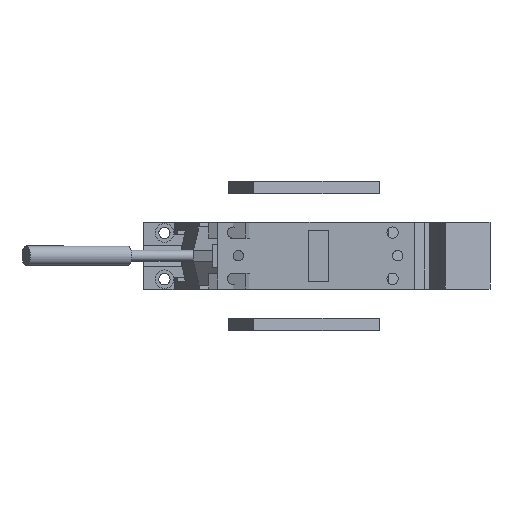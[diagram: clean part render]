
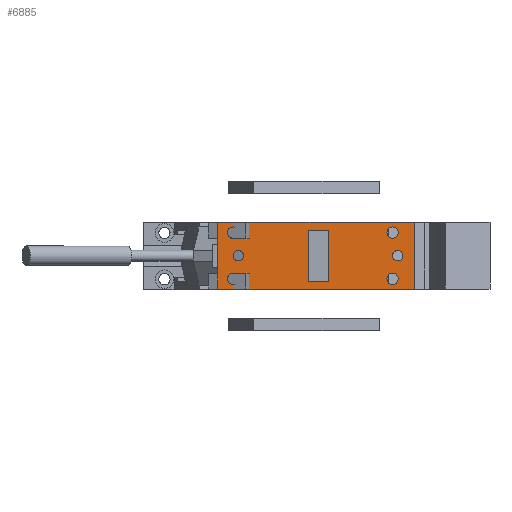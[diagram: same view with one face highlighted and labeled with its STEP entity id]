
A CAD part, top view. The second image highlights one B-rep face of the part: STEP entity #6885.
In plain terms, the highlighted planar face has unit normal (0, 0, 1).
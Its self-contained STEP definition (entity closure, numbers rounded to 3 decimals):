
#6735=AXIS2_PLACEMENT_3D('Plane Axis2P3D',#6732,#6733,#6734) ;
#6779=AXIS2_PLACEMENT_3D('Circle Axis2P3D',#6777,#6778,$) ;
#6788=AXIS2_PLACEMENT_3D('Circle Axis2P3D',#6786,#6787,$) ;
#6797=AXIS2_PLACEMENT_3D('Circle Axis2P3D',#6795,#6796,$) ;
#6806=AXIS2_PLACEMENT_3D('Circle Axis2P3D',#6804,#6805,$) ;
#6815=AXIS2_PLACEMENT_3D('Circle Axis2P3D',#6813,#6814,$) ;
#6824=AXIS2_PLACEMENT_3D('Circle Axis2P3D',#6822,#6823,$) ;
#6833=AXIS2_PLACEMENT_3D('Circle Axis2P3D',#6831,#6832,$) ;
#6842=AXIS2_PLACEMENT_3D('Circle Axis2P3D',#6840,#6841,$) ;
#6851=AXIS2_PLACEMENT_3D('Circle Axis2P3D',#6849,#6850,$) ;
#6860=AXIS2_PLACEMENT_3D('Circle Axis2P3D',#6858,#6859,$) ;
#6869=AXIS2_PLACEMENT_3D('Circle Axis2P3D',#6867,#6868,$) ;
#6878=AXIS2_PLACEMENT_3D('Circle Axis2P3D',#6876,#6877,$) ;
#6605=CARTESIAN_POINT('Vertex',(160.,25.,220.)) ;
#6610=CARTESIAN_POINT('Line Origine',(160.,0.,220.)) ;
#6614=CARTESIAN_POINT('Vertex',(160.,-25.,220.)) ;
#6645=CARTESIAN_POINT('Vertex',(180.,25.,220.)) ;
#6650=CARTESIAN_POINT('Line Origine',(170.,25.,220.)) ;
#6672=CARTESIAN_POINT('Line Origine',(170.,-25.,220.)) ;
#6676=CARTESIAN_POINT('Vertex',(180.,-25.,220.)) ;
#6720=CARTESIAN_POINT('Line Origine',(180.,0.,220.)) ;
#6732=CARTESIAN_POINT('Axis2P3D Location',(263.,0.,220.)) ;
#6737=CARTESIAN_POINT('Line Origine',(72.,0.,220.)) ;
#6741=CARTESIAN_POINT('Vertex',(72.,32.5,220.)) ;
#6743=CARTESIAN_POINT('Vertex',(72.,-32.5,220.)) ;
#6746=CARTESIAN_POINT('Line Origine',(167.5,-32.5,220.)) ;
#6750=CARTESIAN_POINT('Vertex',(263.,-32.5,220.)) ;
#6753=CARTESIAN_POINT('Line Origine',(263.,0.,220.)) ;
#6757=CARTESIAN_POINT('Vertex',(263.,32.5,220.)) ;
#6760=CARTESIAN_POINT('Line Origine',(167.5,32.5,220.)) ;
#6777=CARTESIAN_POINT('Axis2P3D Location',(87.,22.5,220.)) ;
#6781=CARTESIAN_POINT('Vertex',(87.,17.,220.)) ;
#6783=CARTESIAN_POINT('Vertex',(87.,28.,220.)) ;
#6786=CARTESIAN_POINT('Axis2P3D Location',(87.,22.5,220.)) ;
#6795=CARTESIAN_POINT('Axis2P3D Location',(242.,22.5,220.)) ;
#6799=CARTESIAN_POINT('Vertex',(242.,17.,220.)) ;
#6801=CARTESIAN_POINT('Vertex',(242.,28.,220.)) ;
#6804=CARTESIAN_POINT('Axis2P3D Location',(242.,22.5,220.)) ;
#6813=CARTESIAN_POINT('Axis2P3D Location',(87.,-22.5,220.)) ;
#6817=CARTESIAN_POINT('Vertex',(87.,-28.,220.)) ;
#6819=CARTESIAN_POINT('Vertex',(87.,-17.,220.)) ;
#6822=CARTESIAN_POINT('Axis2P3D Location',(87.,-22.5,220.)) ;
#6831=CARTESIAN_POINT('Axis2P3D Location',(242.,-22.5,220.)) ;
#6835=CARTESIAN_POINT('Vertex',(242.,-28.,220.)) ;
#6837=CARTESIAN_POINT('Vertex',(242.,-17.,220.)) ;
#6840=CARTESIAN_POINT('Axis2P3D Location',(242.,-22.5,220.)) ;
#6849=CARTESIAN_POINT('Axis2P3D Location',(92.,0.,220.)) ;
#6853=CARTESIAN_POINT('Vertex',(92.,-5.,220.)) ;
#6855=CARTESIAN_POINT('Vertex',(92.,5.,220.)) ;
#6858=CARTESIAN_POINT('Axis2P3D Location',(92.,0.,220.)) ;
#6867=CARTESIAN_POINT('Axis2P3D Location',(247.,0.,220.)) ;
#6871=CARTESIAN_POINT('Vertex',(247.,-5.,220.)) ;
#6873=CARTESIAN_POINT('Vertex',(247.,5.,220.)) ;
#6876=CARTESIAN_POINT('Axis2P3D Location',(247.,0.,220.)) ;
#6611=DIRECTION('Vector Direction',(0.,-1.,0.)) ;
#6651=DIRECTION('Vector Direction',(-1.,0.,0.)) ;
#6673=DIRECTION('Vector Direction',(1.,0.,0.)) ;
#6721=DIRECTION('Vector Direction',(0.,-1.,0.)) ;
#6733=DIRECTION('Axis2P3D Direction',(0.,0.,-1.)) ;
#6734=DIRECTION('Axis2P3D XDirection',(-1.,0.,0.)) ;
#6738=DIRECTION('Vector Direction',(0.,1.,0.)) ;
#6747=DIRECTION('Vector Direction',(-1.,0.,0.)) ;
#6754=DIRECTION('Vector Direction',(0.,1.,0.)) ;
#6761=DIRECTION('Vector Direction',(-1.,0.,0.)) ;
#6778=DIRECTION('Axis2P3D Direction',(0.,0.,-1.)) ;
#6787=DIRECTION('Axis2P3D Direction',(0.,0.,-1.)) ;
#6796=DIRECTION('Axis2P3D Direction',(0.,0.,-1.)) ;
#6805=DIRECTION('Axis2P3D Direction',(0.,0.,-1.)) ;
#6814=DIRECTION('Axis2P3D Direction',(0.,0.,-1.)) ;
#6823=DIRECTION('Axis2P3D Direction',(0.,0.,-1.)) ;
#6832=DIRECTION('Axis2P3D Direction',(0.,0.,-1.)) ;
#6841=DIRECTION('Axis2P3D Direction',(0.,0.,-1.)) ;
#6850=DIRECTION('Axis2P3D Direction',(0.,0.,-1.)) ;
#6859=DIRECTION('Axis2P3D Direction',(0.,0.,-1.)) ;
#6868=DIRECTION('Axis2P3D Direction',(0.,0.,-1.)) ;
#6877=DIRECTION('Axis2P3D Direction',(0.,0.,-1.)) ;
#6612=VECTOR('Line Direction',#6611,1.) ;
#6652=VECTOR('Line Direction',#6651,1.) ;
#6674=VECTOR('Line Direction',#6673,1.) ;
#6722=VECTOR('Line Direction',#6721,1.) ;
#6739=VECTOR('Line Direction',#6738,1.) ;
#6748=VECTOR('Line Direction',#6747,1.) ;
#6755=VECTOR('Line Direction',#6754,1.) ;
#6762=VECTOR('Line Direction',#6761,1.) ;
#6766=ORIENTED_EDGE('',*,*,#6745,.T.) ;
#6767=ORIENTED_EDGE('',*,*,#6752,.T.) ;
#6768=ORIENTED_EDGE('',*,*,#6759,.F.) ;
#6769=ORIENTED_EDGE('',*,*,#6764,.F.) ;
#6772=ORIENTED_EDGE('',*,*,#6724,.T.) ;
#6773=ORIENTED_EDGE('',*,*,#6678,.F.) ;
#6774=ORIENTED_EDGE('',*,*,#6616,.F.) ;
#6775=ORIENTED_EDGE('',*,*,#6654,.F.) ;
#6792=ORIENTED_EDGE('',*,*,#6785,.T.) ;
#6793=ORIENTED_EDGE('',*,*,#6790,.T.) ;
#6810=ORIENTED_EDGE('',*,*,#6803,.T.) ;
#6811=ORIENTED_EDGE('',*,*,#6808,.T.) ;
#6828=ORIENTED_EDGE('',*,*,#6821,.T.) ;
#6829=ORIENTED_EDGE('',*,*,#6826,.T.) ;
#6846=ORIENTED_EDGE('',*,*,#6839,.T.) ;
#6847=ORIENTED_EDGE('',*,*,#6844,.T.) ;
#6864=ORIENTED_EDGE('',*,*,#6857,.T.) ;
#6865=ORIENTED_EDGE('',*,*,#6862,.T.) ;
#6882=ORIENTED_EDGE('',*,*,#6875,.T.) ;
#6883=ORIENTED_EDGE('',*,*,#6880,.T.) ;
#6776=FACE_BOUND('',#6771,.T.) ;
#6794=FACE_BOUND('',#6791,.T.) ;
#6812=FACE_BOUND('',#6809,.T.) ;
#6830=FACE_BOUND('',#6827,.T.) ;
#6848=FACE_BOUND('',#6845,.T.) ;
#6866=FACE_BOUND('',#6863,.T.) ;
#6884=FACE_BOUND('',#6881,.T.) ;
#6885=ADVANCED_FACE('cam driver',(#6770,#6776,#6794,#6812,#6830,#6848,#6866,#6884),#6736,.F.) ;
#6780=CIRCLE('generated circle',#6779,5.5) ;
#6789=CIRCLE('generated circle',#6788,5.5) ;
#6798=CIRCLE('generated circle',#6797,5.5) ;
#6807=CIRCLE('generated circle',#6806,5.5) ;
#6816=CIRCLE('generated circle',#6815,5.5) ;
#6825=CIRCLE('generated circle',#6824,5.5) ;
#6834=CIRCLE('generated circle',#6833,5.5) ;
#6843=CIRCLE('generated circle',#6842,5.5) ;
#6852=CIRCLE('generated circle',#6851,5.) ;
#6861=CIRCLE('generated circle',#6860,5.) ;
#6870=CIRCLE('generated circle',#6869,5.) ;
#6879=CIRCLE('generated circle',#6878,5.) ;
#6616=EDGE_CURVE('',#6606,#6615,#6613,.T.) ;
#6654=EDGE_CURVE('',#6646,#6606,#6653,.T.) ;
#6678=EDGE_CURVE('',#6615,#6677,#6675,.T.) ;
#6724=EDGE_CURVE('',#6646,#6677,#6723,.T.) ;
#6745=EDGE_CURVE('',#6742,#6744,#6740,.F.) ;
#6752=EDGE_CURVE('',#6744,#6751,#6749,.F.) ;
#6759=EDGE_CURVE('',#6758,#6751,#6756,.F.) ;
#6764=EDGE_CURVE('',#6742,#6758,#6763,.F.) ;
#6785=EDGE_CURVE('',#6782,#6784,#6780,.T.) ;
#6790=EDGE_CURVE('',#6784,#6782,#6789,.T.) ;
#6803=EDGE_CURVE('',#6800,#6802,#6798,.T.) ;
#6808=EDGE_CURVE('',#6802,#6800,#6807,.T.) ;
#6821=EDGE_CURVE('',#6818,#6820,#6816,.T.) ;
#6826=EDGE_CURVE('',#6820,#6818,#6825,.T.) ;
#6839=EDGE_CURVE('',#6836,#6838,#6834,.T.) ;
#6844=EDGE_CURVE('',#6838,#6836,#6843,.T.) ;
#6857=EDGE_CURVE('',#6854,#6856,#6852,.T.) ;
#6862=EDGE_CURVE('',#6856,#6854,#6861,.T.) ;
#6875=EDGE_CURVE('',#6872,#6874,#6870,.T.) ;
#6880=EDGE_CURVE('',#6874,#6872,#6879,.T.) ;
#6765=EDGE_LOOP('',(#6766,#6767,#6768,#6769)) ;
#6771=EDGE_LOOP('',(#6772,#6773,#6774,#6775)) ;
#6791=EDGE_LOOP('',(#6792,#6793)) ;
#6809=EDGE_LOOP('',(#6810,#6811)) ;
#6827=EDGE_LOOP('',(#6828,#6829)) ;
#6845=EDGE_LOOP('',(#6846,#6847)) ;
#6863=EDGE_LOOP('',(#6864,#6865)) ;
#6881=EDGE_LOOP('',(#6882,#6883)) ;
#6770=FACE_OUTER_BOUND('',#6765,.T.) ;
#6613=LINE('Line',#6610,#6612) ;
#6653=LINE('Line',#6650,#6652) ;
#6675=LINE('Line',#6672,#6674) ;
#6723=LINE('Line',#6720,#6722) ;
#6740=LINE('Line',#6737,#6739) ;
#6749=LINE('Line',#6746,#6748) ;
#6756=LINE('Line',#6753,#6755) ;
#6763=LINE('Line',#6760,#6762) ;
#6736=PLANE('',#6735) ;
#6606=VERTEX_POINT('',#6605) ;
#6615=VERTEX_POINT('',#6614) ;
#6646=VERTEX_POINT('',#6645) ;
#6677=VERTEX_POINT('',#6676) ;
#6742=VERTEX_POINT('',#6741) ;
#6744=VERTEX_POINT('',#6743) ;
#6751=VERTEX_POINT('',#6750) ;
#6758=VERTEX_POINT('',#6757) ;
#6782=VERTEX_POINT('',#6781) ;
#6784=VERTEX_POINT('',#6783) ;
#6800=VERTEX_POINT('',#6799) ;
#6802=VERTEX_POINT('',#6801) ;
#6818=VERTEX_POINT('',#6817) ;
#6820=VERTEX_POINT('',#6819) ;
#6836=VERTEX_POINT('',#6835) ;
#6838=VERTEX_POINT('',#6837) ;
#6854=VERTEX_POINT('',#6853) ;
#6856=VERTEX_POINT('',#6855) ;
#6872=VERTEX_POINT('',#6871) ;
#6874=VERTEX_POINT('',#6873) ;
